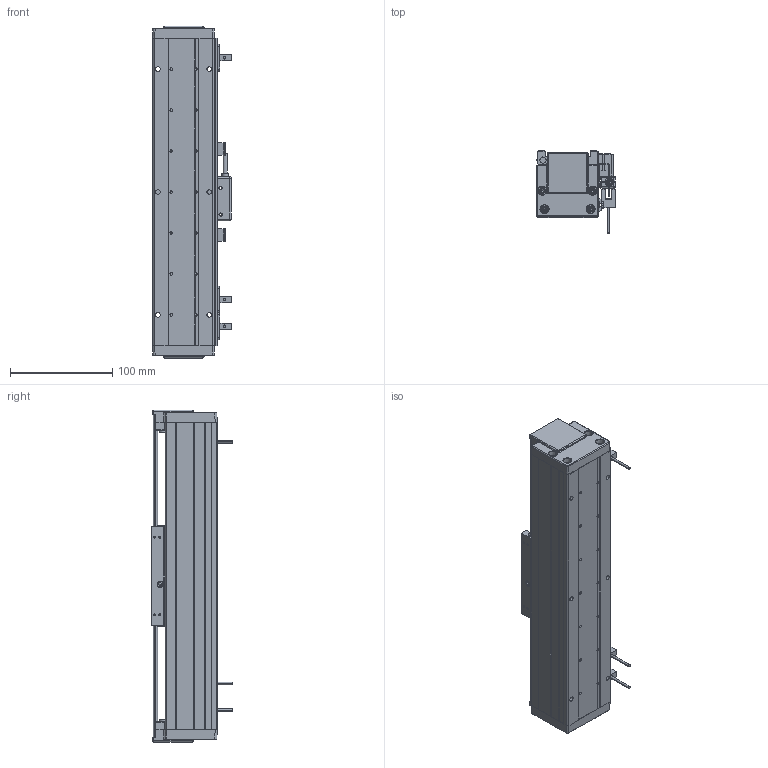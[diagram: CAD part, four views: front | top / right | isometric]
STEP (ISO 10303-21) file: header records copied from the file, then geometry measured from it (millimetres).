
FILE_DESCRIPTION (( 'STEP AP203' ), '1' );
FILE_NAME ('DA-A60-B1-T160-C010-0.2 眻盄萇儂.STEP', '2025-08-13T01:52:17', ( '' ), ( '' ), 'SwSTEP 2.0', 'SolidWorks 2019', '' );
FILE_SCHEMA (( 'CONFIG_CONTROL_DESIGN' ));
Length unit declared in the file: millimetre
Products named in the file (21): 复件 DA60-DMT-DTJ-00 读数头支架^DA-A60-B1-T-C010-0.2-N 直线电机; DA60-YT-B1-HT-B-01 珨极趙賑雄怢啣; 葩璃 DMT-010 1米m 0.2M^DA-A60-B1-T-C010-0.2-N 眻盄萇儂; 复件 DA60-XJ-00 橡胶挡块^DA-A60-B1-T-C010-0.2-N 直线电机; IU-AU60-L-00 菁釱(300); 复件 DA60-GT-T-00 底座钢轨^AU60-L 底座导轨; 葩璃 PM-T45^DA-A60-B1-T-C010-0.2-N 眻盄萇儂; AU60-L 菁釱絳寢; 复件 BAKM01-W030-C1-TP-0.2 直线电机动子^DA-A60-B1-T-C010-0.2-N 直线电机; DA-A60-B1-T160-C010-0.2 眻盄萇儂; 葩璃 AKM01-W030-TRL^DA-A60-B1-T-C010-0.2-N 眻盄萇儂; 复件 DA60-DG-H-N-00 端盖^DA-A60-B1-T-C010-0.2-N 直线电机; 复件 DA60-B1-GT-00 滑块钢轨^DA60-YT-B1-HT-B-01 一体化滑动台板; 复件 纯铜油杯 6x6mm^AU60-V 滚珠滑台; 复件 XD-U-02  磁栅尺^DA-A60-B1-T-C010-0.2-N 直线电机; 复件 DA-A60-GYP-DMT-00 光电感应片^DA-A60-B1-T-C010-0.2-N 直线电机(默认); 复件 六角薄螺母 M3^DA-A60-B1-T-C010-0.2-N 直线电机(GB_FASTENER_NUT_STNAB M3-C); 葩璃 DA60-HK-DP-01 結え^AU60-V 幗紩賑怢; DA60-T-002-00  裔啣; AU60-V 幗紩賑怢; DA60-B1-HT-B-03 賑雄怢啣
Assembly tree (33 placements, depth 4):
  DA-A60-B1-T160-C010-0.2 眻盄萇儂
    AU60-L 菁釱絳寢
      IU-AU60-L-00 菁釱(300)
      复件 DA60-GT-T-00 底座钢轨^AU60-L 底座导轨  x2
    AU60-V 幗紩賑怢
      DA60-YT-B1-HT-B-01 珨极趙賑雄怢啣
        DA60-B1-HT-B-03 賑雄怢啣
        复件 DA60-B1-GT-00 滑块钢轨^DA60-YT-B1-HT-B-01 一体化滑动台板  x2
      葩璃 DA60-HK-DP-01 結え^AU60-V 幗紩賑怢  x2
      复件 纯铜油杯 6x6mm^AU60-V 滚珠滑台
    复件 DA-A60-GYP-DMT-00 光电感应片^DA-A60-B1-T-C010-0.2-N 直线电机(默认)  x2
    复件 DA60-DMT-DTJ-00 读数头支架^DA-A60-B1-T-C010-0.2-N 直线电机
    葩璃 DMT-010 1米m 0.2M^DA-A60-B1-T-C010-0.2-N 眻盄萇儂
    复件 BAKM01-W030-C1-TP-0.2 直线电机动子^DA-A60-B1-T-C010-0.2-N 直线电机
    复件 DA60-XJ-00 橡胶挡块^DA-A60-B1-T-C010-0.2-N 直线电机  x2
    复件 DA60-DG-H-N-00 端盖^DA-A60-B1-T-C010-0.2-N 直线电机  x2
    DA60-T-002-00  裔啣
    葩璃 AKM01-W030-TRL^DA-A60-B1-T-C010-0.2-N 眻盄萇儂
    葩璃 PM-T45^DA-A60-B1-T-C010-0.2-N 眻盄萇儂  x3
    复件 XD-U-02  磁栅尺^DA-A60-B1-T-C010-0.2-N 直线电机
    复件 六角薄螺母 M3^DA-A60-B1-T-C010-0.2-N 直线电机(GB_FASTENER_NUT_STNAB M3-C)  x6
Bounding box: 76.95 x 80 x 324 mm (x, y, z)
Volume: 758933 mm3; surface area: 286759.4 mm2
Topology: 35 solids, 37 shells, 2616 faces, 6516 edges, 3899 vertices
Faces by surface type: cylinder 933, plane 849, bspline 577, cone 248, torus 8, sphere 1
Entity records: 61051 total; most frequent: CARTESIAN_POINT 20125, ORIENTED_EDGE 8288, DIRECTION 7647, EDGE_CURVE 4144, AXIS2_PLACEMENT_3D 2767, VERTEX_POINT 2570, VECTOR 2113, LINE 2113
